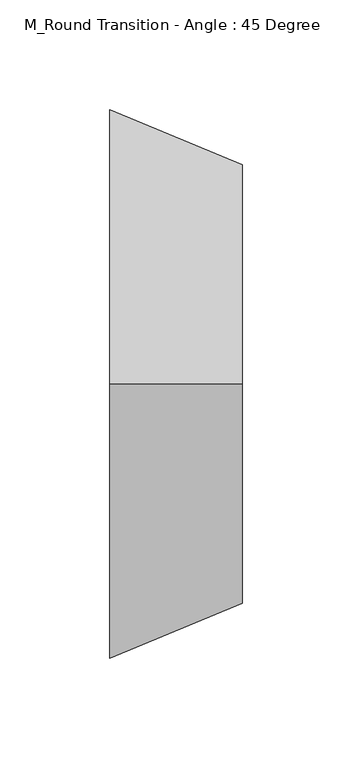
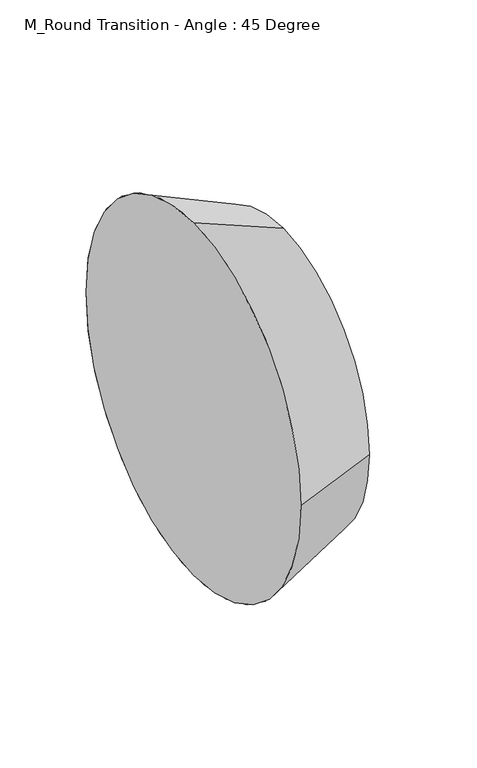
"""IFC4 building model written with IfcOpenShell, lengths in millimetres: duct fitting geometry, M_Round Transition - Angle : 45 Degree."""

from ifc_helpers import new_model, si_unit, frame, origin, place, context, project, spatial, polyline, circle_curve, source, transform, mapped, element, save
from ifc_brep_helpers import plane_surface, revolved_surface, advanced_brep


def m_round_transition_angle_45_degree_7939cf24(model_context):
    return source(origin(), model_context, "Body", "AdvancedBrep", [
        advanced_brep(
        [(60.3553391, -100.0, 0.0), (60.3553391, 0.0, -100.0), (60.3553391, 100.0, 0.0), (60.3553391, 0.0, 100.0), (0.0, -125.0, 0.0), (0.0, 0.0, 125.0), (0.0, 125.0, 0.0), (0.0, 0.0, -125.0)],
        [
            (0, 1, circle_curve(frame((60.3553391, 0.0, 0.0), z_axis=(1.0, 0.0, 0.0), x_axis=(0.0, -1.0, 0.0)), 100.0)),
            (1, 2, circle_curve(frame((60.3553391, 0.0, 0.0), z_axis=(1.0, 0.0, 0.0), x_axis=(0.0, 0.0, -1.0)), 100.0)),
            (2, 3, circle_curve(frame((60.3553391, 0.0, 0.0), z_axis=(1.0, 0.0, 0.0), x_axis=(0.0, 1.0, 0.0)), 100.0)),
            (3, 0, circle_curve(frame((60.3553391, 0.0, 0.0), z_axis=(1.0, 0.0, 0.0), x_axis=(0.0, 0.0, 1.0)), 100.0)),
            (4, 5, circle_curve(frame((0.0, 0.0, 0.0), z_axis=(-1.0, 0.0, 0.0), x_axis=(0.0, 0.0, 1.0)), 125.0)),
            (5, 6, circle_curve(frame((0.0, 0.0, 0.0), z_axis=(-1.0, 0.0, 0.0), x_axis=(0.0, 1.0, 0.0)), 125.0)),
            (6, 7, circle_curve(frame((0.0, 0.0, 0.0), z_axis=(-1.0, 0.0, 0.0), x_axis=(0.0, 0.0, -1.0)), 125.0)),
            (7, 4, circle_curve(frame((0.0, 0.0, 0.0), z_axis=(-1.0, 0.0, 0.0), x_axis=(0.0, -1.0, 0.0)), 125.0)),
            (7, 1),
            (0, 4),
            (6, 2),
            (5, 3),
        ],
        [
            plane_surface(frame((60.3553391, 0.0, 0.0), z_axis=(1.0, 0.0, 0.0), x_axis=(0.0, 0.0, -1.0))),
            plane_surface(frame((0.0, 0.0, 0.0), z_axis=(-1.0, 0.0, 0.0), x_axis=(0.0, 0.0, -1.0))),
            revolved_surface(polyline([(60.35533910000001, -99.99999998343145, 0.0), (0.0, -125.0, 0.0)]), (301.7766953, 0.0, 0.0), (-1.0, 0.0, 0.0)),
            revolved_surface(polyline([(60.35533910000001, 0.0, -99.99999998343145), (0.0, 0.0, -125.0)]), (301.7766953, 0.0, 0.0), (-1.0, 0.0, 0.0)),
            revolved_surface(polyline([(60.35533910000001, 99.99999998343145, 0.0), (0.0, 125.0, 0.0)]), (301.7766953, 0.0, 0.0), (-1.0, 0.0, 0.0)),
            revolved_surface(polyline([(60.35533910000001, 0.0, 99.99999998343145), (0.0, 0.0, 125.0)]), (301.7766953, 0.0, 0.0), (-1.0, 0.0, 0.0)),
        ],
        [
            (0, [[1, 2, 3, 4]]),
            (1, [[5, 6, 7, 8]]),
            (2, [[-8, 9, -1, 10]]),
            (3, [[-7, 11, -2, -9]]),
            (4, [[-6, 12, -3, -11]]),
            (5, [[-5, -10, -4, -12]]),
        ],
    ),
        advanced_brep(
        [(0.0, -125.0, 0.0), (0.0, 0.0, 125.0), (0.0, 125.0, 0.0), (0.0, 0.0, -125.0), (60.3553391, -100.0, 0.0), (60.3553391, 0.0, -100.0), (60.3553391, 100.0, 0.0), (60.3553391, 0.0, 100.0)],
        [
            (0, 1, circle_curve(frame((0.0, 0.0, 0.0), z_axis=(-1.0, 0.0, 0.0), x_axis=(0.0, -1.0, 0.0)), 125.0)),
            (1, 2, circle_curve(frame((0.0, 0.0, 0.0), z_axis=(-1.0, 0.0, 0.0), x_axis=(0.0, 0.0, 1.0)), 125.0)),
            (2, 3, circle_curve(frame((0.0, 0.0, 0.0), z_axis=(-1.0, 0.0, 0.0), x_axis=(0.0, 1.0, 0.0)), 125.0)),
            (3, 0, circle_curve(frame((0.0, 0.0, 0.0), z_axis=(-1.0, 0.0, 0.0), x_axis=(0.0, 0.0, -1.0)), 125.0)),
            (4, 5, circle_curve(frame((60.3553391, 0.0, 0.0), z_axis=(1.0, 0.0, 0.0), x_axis=(0.0, 0.0, -1.0)), 100.0)),
            (5, 6, circle_curve(frame((60.3553391, 0.0, 0.0), z_axis=(1.0, 0.0, 0.0), x_axis=(0.0, 1.0, 0.0)), 100.0)),
            (6, 7, circle_curve(frame((60.3553391, 0.0, 0.0), z_axis=(1.0, 0.0, 0.0), x_axis=(0.0, 0.0, 1.0)), 100.0)),
            (7, 4, circle_curve(frame((60.3553391, 0.0, 0.0), z_axis=(1.0, 0.0, 0.0), x_axis=(0.0, -1.0, 0.0)), 100.0)),
            (7, 1),
            (0, 4),
            (6, 2),
            (5, 3),
        ],
        [
            plane_surface(frame((0.0, 0.0, 0.0), z_axis=(-1.0, 0.0, 0.0), x_axis=(0.0, 0.0, -1.0))),
            plane_surface(frame((60.3553391, 0.0, 0.0), z_axis=(1.0, 0.0, 0.0), x_axis=(0.0, 0.0, -1.0))),
            revolved_surface(polyline([(60.35533910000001, 0.0, 99.99999998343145), (0.0, 0.0, 125.0)]), (301.7766953, 0.0, 0.0), (-1.0, 0.0, 0.0)),
            revolved_surface(polyline([(60.35533910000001, 99.99999998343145, 0.0), (0.0, 125.0, 0.0)]), (301.7766953, 0.0, 0.0), (-1.0, 0.0, 0.0)),
            revolved_surface(polyline([(60.35533910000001, 0.0, -99.99999998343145), (0.0, 0.0, -125.0)]), (301.7766953, 0.0, 0.0), (-1.0, 0.0, 0.0)),
            revolved_surface(polyline([(60.35533910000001, -99.99999998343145, 0.0), (0.0, -125.0, 0.0)]), (301.7766953, 0.0, 0.0), (-1.0, 0.0, 0.0)),
        ],
        [
            (0, [[1, 2, 3, 4]]),
            (1, [[5, 6, 7, 8]]),
            (2, [[-8, 9, -1, 10]]),
            (3, [[-7, 11, -2, -9]]),
            (4, [[-6, 12, -3, -11]]),
            (5, [[-5, -10, -4, -12]]),
        ],
    ),
        advanced_brep(
        [(60.3553391, -100.0, 0.0), (60.3553391, 100.0, 0.0), (0.0, -125.0, 0.0), (0.0, 125.0, 0.0)],
        [
            (0, 1, circle_curve(frame((60.3553391, 0.0, 0.0), z_axis=(1.0, 0.0, 0.0), x_axis=(0.0, -1.0, 0.0)), 100.0)),
            (1, 0, circle_curve(frame((60.3553391, 0.0, 0.0), z_axis=(1.0, 0.0, 0.0), x_axis=(0.0, 1.0, 0.0)), 100.0)),
            (2, 3, circle_curve(frame((0.0, 0.0, 0.0), z_axis=(-1.0, 0.0, 0.0), x_axis=(0.0, 1.0, 0.0)), 125.0)),
            (3, 2, circle_curve(frame((0.0, 0.0, 0.0), z_axis=(-1.0, 0.0, 0.0), x_axis=(0.0, -1.0, 0.0)), 125.0)),
            (3, 1),
            (0, 2),
        ],
        [
            plane_surface(frame((60.3553391, 0.0, 0.0), z_axis=(1.0, 0.0, 0.0), x_axis=(0.0, 0.0, -1.0))),
            plane_surface(frame((0.0, 0.0, 0.0), z_axis=(-1.0, 0.0, 0.0), x_axis=(0.0, 0.0, -1.0))),
            revolved_surface(polyline([(60.35533910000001, -99.99999998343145, 0.0), (0.0, -125.0, 0.0)]), (301.7766953, 0.0, 0.0), (-1.0, 0.0, 0.0)),
            revolved_surface(polyline([(60.35533910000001, 99.99999998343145, 0.0), (0.0, 125.0, 0.0)]), (301.7766953, 0.0, 0.0), (-1.0, 0.0, 0.0)),
        ],
        [
            (0, [[1, 2]]),
            (1, [[3, 4]]),
            (2, [[-4, 5, -1, 6]]),
            (3, [[-3, -6, -2, -5]]),
        ],
    ),
    ])


if __name__ == "__main__":
    model = new_model("IFC4")
    model_context = context("Model", 3, world=origin())
    ifc_project = project(units=[si_unit("LENGTHUNIT", "METRE", prefix="MILLI")], contexts=[model_context])
    site = spatial("IfcSite", under=ifc_project)
    building = spatial("IfcBuilding", under=site)
    placement = place(None, origin())
    m_round_transition_angle_45_degree_shape = m_round_transition_angle_45_degree_7939cf24(model_context)
    element("IfcDuctFitting", 1, ObjectType="M_Round Transition - Angle : 45 Degree", at=placement, inside=building, context=model_context, shape_type="MappedRepresentation", body=[
        mapped(m_round_transition_angle_45_degree_shape, transform((0.0, 0.0, 0.0), x_axis=(1.0, 0.0, 0.0), y_axis=(0.0, 1.0, 0.0), z_axis=(0.0, 0.0, 1.0))),
    ])
    save(model, "model.ifc")
